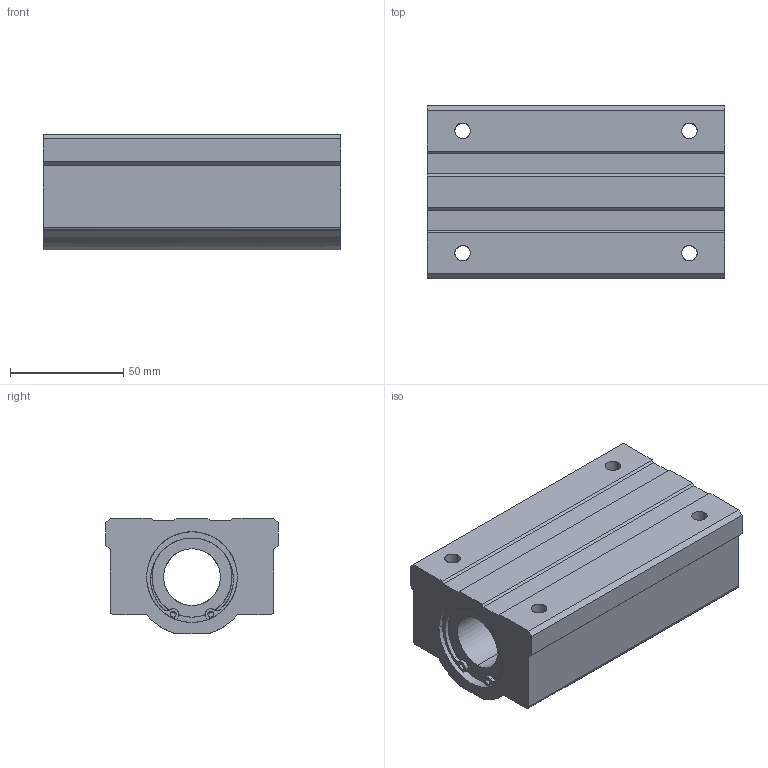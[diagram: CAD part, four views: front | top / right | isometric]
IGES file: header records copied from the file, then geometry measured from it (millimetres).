
Global section: file name: No Iges File Name specified; native system: AutoDesk Inventor R10; preprocessor: AutoDesk Inventor Iges Exporter R10; author: No Author specified; organization: No Organization specified; date: 20101216.173711; units: millimetre
Bounding box: 131 x 76 x 51 mm (x, y, z)
Surface area: 52446.7 mm2 (no closed solid volume)
Topology: 0 solids, 0 shells, 102 faces, 708 edges, 708 vertices
Faces by surface type: bspline 102
